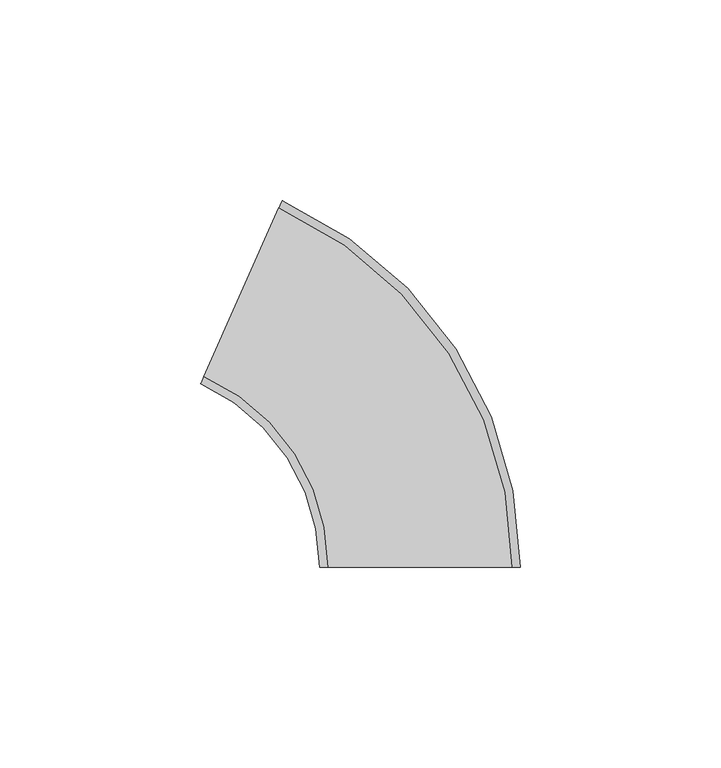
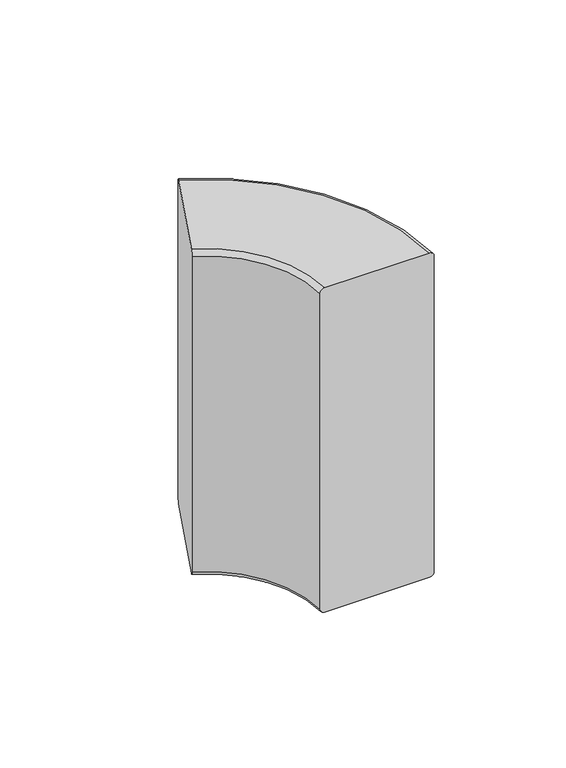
"""IFC4 building model written with IfcOpenShell, lengths in millimetres: duct fitting geometry, Угол внешний переменный от 60° до 120° - для кабель-каналов - белый : Угол внешний переменный от 60° до 120° - для кабель-каналов DLP 50х150 - белый."""

from ifc_helpers import new_model, si_unit, point, frame, origin, place, context, project, spatial, polyline, circle_curve, ellipse_curve, trimmed, source, transform, mapped, element, save
from ifc_brep_helpers import plane_surface, cylinder_surface, revolved_surface, advanced_brep


def duct_fitting_172be3a8(model_context):
    return source(origin(), model_context, "Body", "AdvancedBrep", [
        advanced_brep(
        [(-23.0, 0.0, 75.0), (-25.0, 0.0, 73.0), (-25.0, 0.0, -73.0), (-23.0, 0.0, -75.0), (23.0, 0.0, -75.0), (25.0, 0.0, -73.0), (25.0, 0.0, 73.0), (23.0, 0.0, 75.0), (-53.8496946, 47.5043638, 75.0), (-35.139809, 89.5274548, 75.0), (-34.3263357, 91.3545458, 73.0), (-34.3263357, 91.3545458, -73.0), (-35.139809, 89.5274548, -75.0), (-53.8496946, 47.5043638, -75.0), (-54.6631678, 45.6772729, -73.0), (-54.6631678, 45.6772729, 73.0)],
        [
            (0, 1, circle_curve(frame((-23.0, 0.0, 73.0), z_axis=(0.0, -1.0, 0.0), x_axis=(-1.0, 0.0, 0.0)), 2.0)),
            (1, 2),
            (2, 3, circle_curve(frame((-23.0, 0.0, -73.0), z_axis=(0.0, -1.0, 0.0), x_axis=(-1.0, 0.0, 0.0)), 2.0)),
            (3, 4),
            (4, 5, circle_curve(frame((23.0, 0.0, -73.0), z_axis=(0.0, -1.0, 0.0), x_axis=(-1.0, 0.0, 0.0)), 2.0)),
            (5, 6),
            (6, 7, circle_curve(frame((23.0, 0.0, 73.0), z_axis=(0.0, -1.0, 0.0), x_axis=(-1.0, 0.0, 0.0)), 2.0)),
            (7, 0),
            (8, 9),
            (9, 10, circle_curve(frame((-35.139809, 89.5274548, 73.0), z_axis=(-0.913545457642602, 0.4067366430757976, 0.0), x_axis=(-0.4067366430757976, -0.913545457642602, 0.0)), 2.0)),
            (10, 11),
            (11, 12, circle_curve(frame((-35.139809, 89.5274548, -73.0), z_axis=(-0.913545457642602, 0.4067366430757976, 0.0), x_axis=(-0.4067366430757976, -0.913545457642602, 0.0)), 2.0)),
            (12, 13),
            (13, 14, circle_curve(frame((-53.8496946, 47.5043638, -73.0), z_axis=(-0.913545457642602, 0.4067366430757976, 0.0), x_axis=(-0.4067366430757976, -0.913545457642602, 0.0)), 2.0)),
            (14, 15),
            (15, 8, circle_curve(frame((-53.8496946, 47.5043638, 73.0), z_axis=(-0.913545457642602, 0.4067366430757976, 0.0), x_axis=(-0.4067366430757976, -0.913545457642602, 0.0)), 2.0)),
            (15, 1, circle_curve(frame((-75.0, 0.0, 73.0), z_axis=(0.0, 0.0, -1.0), x_axis=(1.0, 0.0, 0.0)), 50.0)),
            (0, 8, circle_curve(frame((-75.0, 0.0, 75.0), z_axis=(0.0, 0.0, 1.0), x_axis=(1.0, 0.0, 0.0)), 52.0)),
            (14, 2, circle_curve(frame((-75.0, 0.0, -73.0), z_axis=(0.0, 0.0, -1.0), x_axis=(1.0, 0.0, 0.0)), 50.0)),
            (13, 3, circle_curve(frame((-75.0, 0.0, -75.0), z_axis=(0.0, 0.0, -1.0), x_axis=(1.0, 0.0, 0.0)), 52.0)),
            (12, 4, circle_curve(frame((-75.0, 0.0, -75.0), z_axis=(0.0, 0.0, -1.0), x_axis=(1.0, 0.0, 0.0)), 98.0)),
            (11, 5, circle_curve(frame((-75.0, 0.0, -73.0), z_axis=(0.0, 0.0, -1.0), x_axis=(1.0, 0.0, 0.0)), 100.0)),
            (10, 6, circle_curve(frame((-75.0, 0.0, 73.0), z_axis=(0.0, 0.0, -1.0), x_axis=(1.0, 0.0, 0.0)), 100.0)),
            (9, 7, circle_curve(frame((-75.0, 0.0, 75.0), z_axis=(0.0, 0.0, -1.0), x_axis=(1.0, 0.0, 0.0)), 98.0)),
        ],
        [
            plane_surface(frame((0.0, 0.0, 0.0), z_axis=(0.0, -1.0, 0.0), x_axis=(0.0, 0.0, 1.0))),
            plane_surface(frame((-44.4947518, 68.5159093, 0.0), z_axis=(-0.913545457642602, 0.4067366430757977, 0.0), x_axis=(0.0, 0.0, 1.0))),
            revolved_surface(trimmed(ellipse_curve(frame((-23.0, 0.0, 73.0), z_axis=(0.0, -1.0, 0.0), x_axis=(-1.0, 0.0, 0.0)), 2.0, 2.0), [point((-23.0, 0.0, 75.0))], [point((-25.0, 0.0, 73.0))], True, "CARTESIAN"), (-75.0, 0.0, 0.0), (0.0, 0.0, 1.0)),
            revolved_surface(polyline([(-25.0, 0.0, 73.0), (-25.0, 0.0, -73.0)]), (-75.0, 0.0, 0.0), (0.0, 0.0, 1.0)),
            revolved_surface(trimmed(ellipse_curve(frame((-23.0, 0.0, -73.0), z_axis=(0.0, -1.0, 0.0), x_axis=(-1.0, 0.0, 0.0)), 2.0, 2.0), [point((-25.0, 0.0, -73.0))], [point((-23.0, 0.0, -75.0))], True, "CARTESIAN"), (-75.0, 0.0, 0.0), (0.0, 0.0, 1.0)),
            plane_surface(frame((-75.0, 0.0, -75.0), z_axis=(0.0, 0.0, -1.0), x_axis=(1.0, 0.0, 0.0))),
            revolved_surface(trimmed(ellipse_curve(frame((23.0, 0.0, -73.0), z_axis=(0.0, -1.0, 0.0), x_axis=(-1.0, 0.0, 0.0)), 2.0, 2.0), [point((23.0, 0.0, -75.0))], [point((25.0, 0.0, -73.0))], True, "CARTESIAN"), (-75.0, 0.0, 0.0), (0.0, 0.0, 1.0)),
            cylinder_surface(frame((-75.0, 0.0, 0.0), z_axis=(0.0, 0.0, 1.0), x_axis=(1.0, 0.0, 0.0)), 100.0),
            revolved_surface(trimmed(ellipse_curve(frame((23.0, 0.0, 73.0), z_axis=(0.0, -1.0, 0.0), x_axis=(-1.0, 0.0, 0.0)), 2.0, 2.0), [point((25.0, 0.0, 73.0))], [point((23.0, 0.0, 75.0))], True, "CARTESIAN"), (-75.0, 0.0, 0.0), (0.0, 0.0, 1.0)),
            plane_surface(frame((-75.0, 0.0, 75.0), z_axis=(0.0, 0.0, 1.0), x_axis=(1.0, 0.0, 0.0))),
        ],
        [
            (0, [[1, 2, 3, 4, 5, 6, 7, 8]]),
            (1, [[9, 10, 11, 12, 13, 14, 15, 16]]),
            (2, [[17, -1, 18, -16]]),
            (3, [[19, -2, -17, -15]]),
            (4, [[20, -3, -19, -14]]),
            (5, [[21, -4, -20, -13]]),
            (6, [[22, -5, -21, -12]]),
            (7, [[23, -6, -22, -11]]),
            (8, [[24, -7, -23, -10]]),
            (9, [[-18, -8, -24, -9]]),
        ],
    ),
    ])


if __name__ == "__main__":
    model = new_model("IFC4")
    model_context = context("Model", 3, world=origin())
    ifc_project = project(units=[si_unit("LENGTHUNIT", "METRE", prefix="MILLI")], contexts=[model_context])
    site = spatial("IfcSite", under=ifc_project)
    building = spatial("IfcBuilding", under=site)
    placement = place(None, origin())
    duct_fitting_shape = duct_fitting_172be3a8(model_context)
    element("IfcDuctFitting", 1, ObjectType="Угол внешний переменный от 60° до 120° - для кабель-каналов - белый : Угол внешний переменный от 60° до 120° - для кабель-каналов DLP 50х150 - белый", at=placement, inside=building, context=model_context, shape_type="MappedRepresentation", body=[
        mapped(duct_fitting_shape, transform((0.0, 0.0, 0.0), x_axis=(1.0, 0.0, 0.0), y_axis=(0.0, 1.0, 0.0), z_axis=(0.0, 0.0, 1.0))),
    ])
    save(model, "model.ifc")
